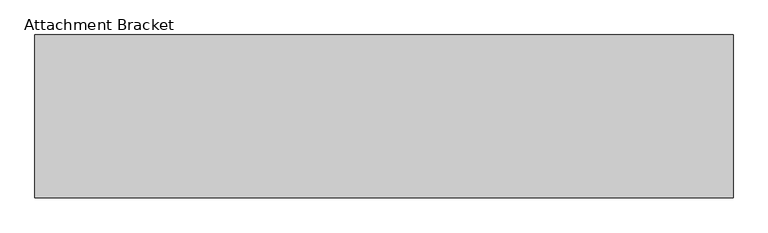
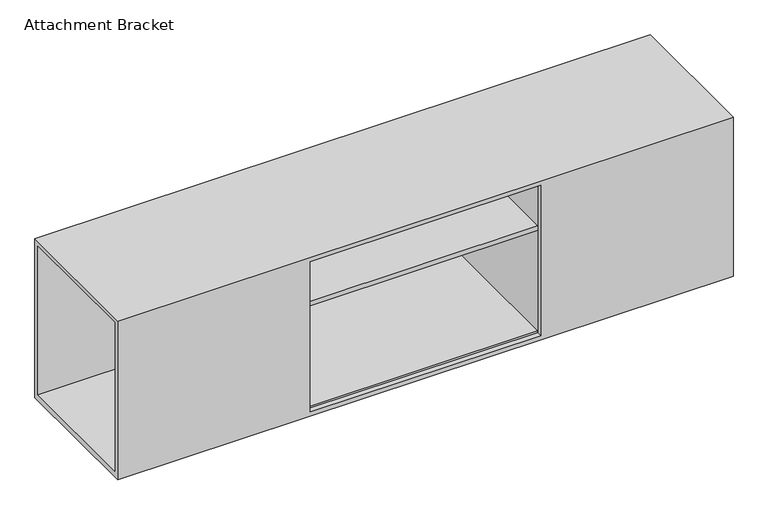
"""IFC4 building model written with IfcOpenShell, lengths in millimetres: furniture geometry, Steelcase Turnstone - Bivi - Storage - Trunk : Attachment Bracket."""

from ifc_helpers import new_model, si_unit, frame, origin, place, context, project, spatial, polyline, circle_curve, outline, extrude, source, transform, mapped, element, save
from ifc_brep_helpers import plane_surface, revolved_surface, advanced_brep


def attachment_bracket_e48f39cd(model_context):
    return source(origin(), model_context, "Body", "SolidModel", [
        extrude(outline(polyline([(476.3715042, -13.081), (1047.75, -13.081), (1047.75, -340.1059845), (476.3715042, -340.1059845), (476.3715042, -13.081)])), frame((0.0, 0.0, 585.109162), z_axis=(0.0, 0.0, 1.0), x_axis=(1.0, 0.0, 0.0)), (0.0, 0.0, 1.0), 11.4807673),
        extrude(outline(polyline([(476.3715042, -13.081), (476.3715042, -340.1059845), (452.5217972, -340.1059845), (452.5217972, -13.081), (476.3715042, -13.081)])), frame((0.0, 0.0, 317.5), z_axis=(0.0, 0.0, 1.0), x_axis=(1.0, 0.0, 0.0)), (0.0, 0.0, 1.0), 393.3189671),
        extrude(outline(polyline([(1071.599707, -13.081), (1071.599707, -340.1059845), (1047.75, -340.1059845), (1047.75, -13.081), (1071.599707, -13.081)])), frame((0.0, 0.0, 317.5), z_axis=(0.0, 0.0, 1.0), x_axis=(1.0, 0.0, 0.0)), (0.0, 0.0, 1.0), 393.3189671),
        advanced_brep(
        [(1524.0, 2.4129826, 722.3860662), (0.0, 2.4129826, 722.3860662), (0.0, -353.1870174, 722.3860662), (1524.0, -353.1870174, 722.3860662), (1524.0, 2.4129826, 306.4508803), (1524.0, -353.1870174, 306.4508803), (0.0, -353.1870174, 306.4508803), (0.0, 2.4129826, 306.4508803), (782.4459185, 2.4129826, 647.2628104), (741.6414208, 2.4129826, 647.2628104), (0.0, -340.1059845, 710.8189671), (0.0, -340.1059845, 321.552397), (0.0, -10.7950174, 321.552397), (0.0, -10.7950174, 710.8189671), (476.3715042, -353.1870174, 710.8189671), (1047.75, -353.1870174, 710.8189671), (1047.75, -353.1870174, 317.5), (476.3715042, -353.1870174, 317.5), (1524.0, -340.1059845, 321.552397), (1524.0, -340.1059845, 710.8189671), (1524.0, -10.7950174, 710.8189671), (1524.0, -10.7950174, 321.552397), (476.3715042, -340.1059845, 317.5), (1047.75, -340.1059845, 317.5), (1047.75, -340.1059845, 321.552397), (476.3715042, -340.1059845, 321.552397), (476.3715042, -340.1059845, 710.8189671), (1047.75, -340.1059845, 710.8189671), (782.4459185, -10.7950174, 647.2628104), (741.6414208, -10.7950174, 647.2628104)],
        [
            (0, 1),
            (1, 2),
            (2, 3),
            (3, 0),
            (4, 5),
            (5, 6),
            (6, 7),
            (7, 4),
            (0, 4),
            (7, 1),
            (8, 9, circle_curve(frame((762.0436697, 2.4129826, 647.2628104), z_axis=(0.0, -1.0, 0.0), x_axis=(-1.0, 0.0, 0.0)), 20.4022489)),
            (9, 8, circle_curve(frame((762.0436697, 2.4129826, 647.2628104), z_axis=(0.0, -1.0, 0.0), x_axis=(-1.0, 0.0, 0.0)), 20.4022489)),
            (6, 2),
            (10, 11),
            (11, 12),
            (12, 13),
            (13, 10),
            (5, 3),
            (14, 15),
            (15, 16),
            (16, 17),
            (17, 14),
            (18, 19),
            (19, 20),
            (20, 21),
            (21, 18),
            (22, 23),
            (23, 24),
            (24, 25),
            (25, 22),
            (14, 26),
            (26, 10),
            (13, 20),
            (19, 27),
            (27, 15),
            (17, 22),
            (25, 26),
            (16, 23),
            (27, 24),
            (8, 28),
            (28, 29, circle_curve(frame((762.0436697, -10.7950174, 647.2628104), z_axis=(0.0, -1.0, 0.0), x_axis=(-1.0, 0.0, 0.0)), 20.4022489)),
            (29, 9),
            (29, 28, circle_curve(frame((762.0436697, -10.7950174, 647.2628104), z_axis=(0.0, -1.0, 0.0), x_axis=(-1.0, 0.0, 0.0)), 20.4022489)),
            (25, 11),
            (18, 24),
            (21, 12),
        ],
        [
            plane_surface(frame((0.0, 2.4129826, 722.3860662), z_axis=(0.0, 0.0, 1.0), x_axis=(-1.0, 0.0, 0.0))),
            plane_surface(frame((0.0, 2.4129826, 306.4508803), z_axis=(0.0, 0.0, -1.0), x_axis=(1.0, 0.0, 0.0))),
            plane_surface(frame((1524.0, 2.4129826, 722.3860662), z_axis=(0.0, 1.0, 0.0), x_axis=(0.0, 0.0, -1.0))),
            plane_surface(frame((0.0, 2.4129826, 722.3860662), z_axis=(-1.0, 0.0, 0.0), x_axis=(0.0, 0.0, -1.0))),
            plane_surface(frame((0.0, -353.1870174, 722.3860662), z_axis=(0.0, -1.0, 0.0), x_axis=(0.0, 0.0, -1.0))),
            plane_surface(frame((1524.0, -353.1870174, 722.3860662), z_axis=(1.0, 0.0, 0.0), x_axis=(0.0, 0.0, -1.0))),
            plane_surface(frame((481.9650036, -340.1059845, 710.8189671), z_axis=(0.0, -1.0, 0.0), x_axis=(1.0, 0.0, 0.0))),
            plane_surface(frame((1047.75, -353.1870174, 710.8189671), z_axis=(0.0, 0.0, -1.0), x_axis=(0.0, 1.0, 0.0))),
            plane_surface(frame((476.3715042, -353.1870174, 710.8189671), z_axis=(1.0, 0.0, 0.0), x_axis=(0.0, 1.0, 0.0))),
            plane_surface(frame((476.3715042, -353.1870174, 317.5), z_axis=(0.0, 0.0, 1.0), x_axis=(0.0, 1.0, 0.0))),
            plane_surface(frame((1047.75, -353.1870174, 317.5), z_axis=(-1.0, 0.0, 0.0), x_axis=(0.0, 1.0, 0.0))),
            revolved_surface(polyline([(741.6414208, -10.7950174, 647.2628104), (741.6414208, 2.4129826, 647.2628104)]), (762.0436697, 2.4129826, 647.2628104), (0.0, -1.0, 0.0)),
            plane_surface(frame((1524.0, -340.1059845, 710.8189671), z_axis=(0.0, 1.0, 0.0), x_axis=(-1.0, 0.0, 0.0))),
            plane_surface(frame((1524.0, -340.1059845, 321.552397), z_axis=(0.0, 0.0, 1.0), x_axis=(-1.0, 0.0, 0.0))),
            plane_surface(frame((1524.0, -10.7950174, 321.552397), z_axis=(0.0, -1.0, 0.0), x_axis=(-1.0, 0.0, 0.0))),
        ],
        [
            (0, [[1, 2, 3, 4]]),
            (1, [[5, 6, 7, 8]]),
            (2, [[-1, 9, -8, 10], [11, 12]]),
            (3, [[-2, -10, -7, 13], [14, 15, 16, 17]]),
            (4, [[-3, -13, -6, 18], [19, 20, 21, 22]]),
            (5, [[-4, -18, -5, -9], [23, 24, 25, 26]]),
            (6, [[27, 28, 29, 30]]),
            (7, [[31, 32, -17, 33, -24, 34, 35, -19]]),
            (8, [[-31, -22, 36, -30, 37]]),
            (9, [[-27, -36, -21, 38]]),
            (10, [[-35, 39, -28, -38, -20]]),
            (11, [[-11, 40, 41, 42]]),
            (11, [[-12, -42, 43, -40]]),
            (12, [[-32, -37, 44, -14]]),
            (12, [[-34, -23, 45, -39]]),
            (13, [[46, -15, -44, -29, -45, -26]]),
            (14, [[-46, -25, -33, -16], [-41, -43]]),
        ],
    ),
    ])


if __name__ == "__main__":
    model = new_model("IFC4")
    model_context = context("Model", 3, world=origin())
    ifc_project = project(units=[si_unit("LENGTHUNIT", "METRE", prefix="MILLI")], contexts=[model_context])
    site = spatial("IfcSite", under=ifc_project)
    building = spatial("IfcBuilding", under=site)
    placement = place(None, origin())
    attachment_bracket_shape = attachment_bracket_e48f39cd(model_context)
    element("IfcFurniture", 1, ObjectType="Steelcase Turnstone - Bivi - Storage - Trunk : Attachment Bracket", at=placement, inside=building, context=model_context, shape_type="MappedRepresentation", body=[
        mapped(attachment_bracket_shape, transform((0.0, 0.0, 0.0), x_axis=(1.0, 0.0, 0.0), y_axis=(0.0, 1.0, 0.0), z_axis=(0.0, 0.0, 1.0))),
    ])
    save(model, "model.ifc")
